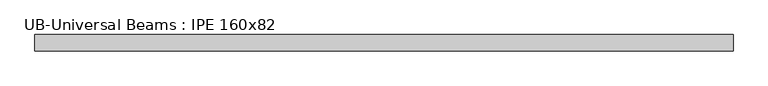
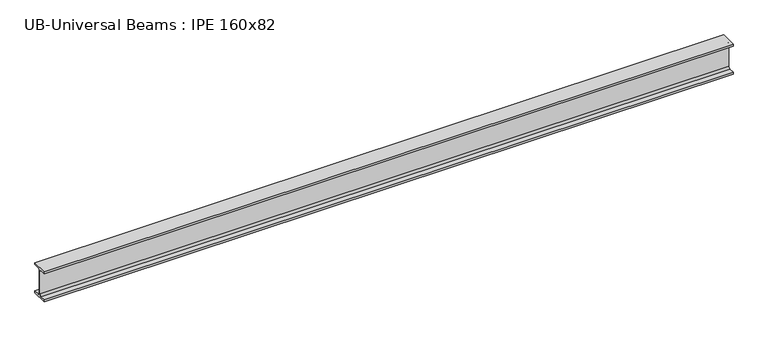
"""IFC4 building model written with IfcOpenShell, lengths in millimetres: beam geometry, UB-Universal Beams : IPE 160x82."""

import ifcopenshell
import ifcopenshell.guid

model = None  # the IFC model being written
_history = None  # IfcOwnerHistory: only IFC2X3 demands one
_inside = {}  # id of a spatial element -> (the spatial element, [elements in it])
_under = {}  # id of a project, library or spatial element -> (it, [spatial elements below it])
_declared = {}  # id of a project -> (the project, [libraries it declares])
_typed = {}  # id of a type object -> (the type object, [elements of that type])
_made_of = {}  # id of a material, layer set ... -> (it, [elements and type objects made of it])


def new_model(schema):
    """Start an empty IFC model of exactly this schema.

    Asked for "IFC4X3", IfcOpenShell would pick the latest addendum, in which some entities
    have other attributes; the version numbers below select the first issue.
    IFC2X3 requires an IfcOwnerHistory on every rooted entity: one is made here for all.
    """
    global model, _history
    if schema == "IFC4X3":
        model = ifcopenshell.file(schema_version=(4, 3, 0, 0))
    else:
        model = ifcopenshell.file(schema=schema)
    _inside.clear()
    _under.clear()
    _declared.clear()
    _typed.clear()
    _made_of.clear()
    _history = None
    if model.schema == "IFC2X3":
        org = make("IfcOrganization", Name="unknown")
        user = make(
            "IfcPersonAndOrganization",
            ThePerson=make("IfcPerson", FamilyName="unknown"),
            TheOrganization=org,
        )
        app = make(
            "IfcApplication",
            ApplicationDeveloper=org,
            Version="unknown",
            ApplicationFullName="unknown",
            ApplicationIdentifier="unknown",
        )
        _history = make(
            "IfcOwnerHistory",
            OwningUser=user,
            OwningApplication=app,
            ChangeAction="ADDED",
            CreationDate=0,
        )
    return model


def make(cls, **values):
    """One entity of the class cls with the attributes given. An attribute that is None is left unset."""
    return model.create_entity(
        cls, **{name: value for name, value in values.items() if value is not None}
    )


def rooted(cls, **values):
    """An entity with a GlobalId (a new one), such as an element, a storey or a relation."""
    return make(cls, GlobalId=ifcopenshell.guid.new(), OwnerHistory=_history, **values)


def si_unit(unit_type, name, prefix=None):
    """IfcSIUnit, for example si_unit("LENGTHUNIT", "METRE", prefix="MILLI")."""
    return make("IfcSIUnit", UnitType=unit_type, Prefix=prefix, Name=name)


def assignment(units):
    """IfcUnitAssignment: the units of a project."""
    return None if units is None else make("IfcUnitAssignment", Units=units)


def point(xyz):
    """IfcCartesianPoint."""
    return None if xyz is None else make("IfcCartesianPoint", Coordinates=xyz)


def direction(xyz):
    """IfcDirection."""
    return None if xyz is None else make("IfcDirection", DirectionRatios=xyz)


def frame(location, z_axis=None, x_axis=None):
    """IfcAxis2Placement3D, a coordinate frame: its origin and axes. An axis left out is left unset."""
    return make(
        "IfcAxis2Placement3D",
        Location=point(location),
        Axis=direction(z_axis),
        RefDirection=direction(x_axis),
    )


def frame_2d(location, x_axis=None):
    """IfcAxis2Placement2D, a coordinate frame in the plane: its origin and x axis."""
    return make(
        "IfcAxis2Placement2D", Location=point(location), RefDirection=direction(x_axis)
    )


def origin():
    """The frame at (0, 0, 0) with its axes left unset."""
    return frame((0.0, 0.0, 0.0))


def place(relative_to, where):
    """IfcLocalPlacement: puts the frame where relative to a parent placement (None: the world)."""
    return make(
        "IfcLocalPlacement", PlacementRelTo=relative_to, RelativePlacement=where
    )


def context(
    kind, dimensions, precision=None, world=None, true_north=None, identifier=None
):
    """IfcGeometricRepresentationContext, for example the 3D "Model" context."""
    return make(
        "IfcGeometricRepresentationContext",
        ContextIdentifier=identifier,
        ContextType=kind,
        CoordinateSpaceDimension=dimensions,
        Precision=precision,
        WorldCoordinateSystem=world,
        TrueNorth=true_north,
    )


def project(units=None, contexts=None):
    """IfcProject with its units and contexts."""
    return rooted(
        "IfcProject",
        Name="project",
        RepresentationContexts=contexts,
        UnitsInContext=assignment(units),
    )


def spatial(cls, under=None, at=None, **own):
    """A site, building, storey or space (cls), placed at a placement, below another one or the project."""
    s = rooted(cls, ObjectPlacement=at, **own)
    if under is not None:
        _under.setdefault(under.id(), (under, []))[1].append(s)
    return s


def polyline(points):
    """IfcPolyline through the points."""
    return make("IfcPolyline", Points=[point(p) for p in points])


def circle_curve(where, radius):
    """IfcCircle in the frame where."""
    return make("IfcCircle", Position=where, Radius=radius)


def trimmed(basis, trim1, trim2, sense, master):
    """IfcTrimmedCurve: the piece of a basis curve between two trims."""
    return make(
        "IfcTrimmedCurve",
        BasisCurve=basis,
        Trim1=trim1,
        Trim2=trim2,
        SenseAgreement=sense,
        MasterRepresentation=master,
    )


def segment(curve, same_sense, transition):
    """IfcCompositeCurveSegment."""
    return make(
        "IfcCompositeCurveSegment",
        Transition=transition,
        SameSense=same_sense,
        ParentCurve=curve,
    )


def composite_curve(segments, self_intersect=None):
    """IfcCompositeCurve: segments joined end to end."""
    return make("IfcCompositeCurve", Segments=segments, SelfIntersect=self_intersect)


def outline(outer, holes=None, kind="AREA"):
    """IfcArbitraryClosedProfileDef: a profile drawn as a closed curve; with holes, ...WithVoids."""
    if holes is None:
        return make("IfcArbitraryClosedProfileDef", ProfileType=kind, OuterCurve=outer)
    return make(
        "IfcArbitraryProfileDefWithVoids",
        ProfileType=kind,
        OuterCurve=outer,
        InnerCurves=holes,
    )


def extrude(swept, where, along, depth):
    """IfcExtrudedAreaSolid: the profile swept, set in the frame where, extruded along a direction by depth."""
    return make(
        "IfcExtrudedAreaSolid",
        SweptArea=swept,
        Position=where,
        ExtrudedDirection=direction(along),
        Depth=depth,
    )


def shape(context_of_items, identifier, shape_type, items):
    """IfcShapeRepresentation: the items that make up one representation, for example the "Body"."""
    return make(
        "IfcShapeRepresentation",
        ContextOfItems=context_of_items,
        RepresentationIdentifier=identifier,
        RepresentationType=shape_type,
        Items=items,
    )


def source(mapping_origin, context_of_items, identifier, shape_type, items):
    """IfcRepresentationMap: a shape defined once, which mapped items show again and again."""
    return make(
        "IfcRepresentationMap",
        MappingOrigin=mapping_origin,
        MappedRepresentation=shape(context_of_items, identifier, shape_type, items),
    )


def transform(
    local_origin,
    x_axis=None,
    y_axis=None,
    z_axis=None,
    scale=None,
    scale2=None,
    scale3=None,
    uniform=True,
):
    """IfcCartesianTransformationOperator3D, or its non-uniform kind. x_axis, y_axis, z_axis: its Axis1, 2, 3."""
    if uniform:
        return make(
            "IfcCartesianTransformationOperator3D",
            Axis1=direction(x_axis),
            Axis2=direction(y_axis),
            LocalOrigin=point(local_origin),
            Scale=scale,
            Axis3=direction(z_axis),
        )
    return make(
        "IfcCartesianTransformationOperator3DnonUniform",
        Axis1=direction(x_axis),
        Axis2=direction(y_axis),
        LocalOrigin=point(local_origin),
        Scale=scale,
        Axis3=direction(z_axis),
        Scale2=scale2,
        Scale3=scale3,
    )


def mapped(mapping_source, mapping_target):
    """IfcMappedItem: shows the shape of a source again, moved by a transform."""
    return make(
        "IfcMappedItem", MappingSource=mapping_source, MappingTarget=mapping_target
    )


def made_of(thing, what):
    """Note that an element or type object is made of a material, layer set ...; save() writes the relation."""
    if what is not None:
        _made_of.setdefault(what.id(), (what, []))[1].append(thing)
    return thing


def element(
    cls,
    number,
    at=None,
    inside=None,
    cuts=None,
    type_object=None,
    material=None,
    context=None,
    identifier="Body",
    shape_type=None,
    held_by="IfcProductDefinitionShape",
    body=None,
    shapes=None,
    **own,
):
    """One element of the class cls, such as IfcWall. Its Tag is "e" and its number.

    at: its placement. inside: the storey or other place that contains it. cuts: it is an
    opening in that element (IfcRelVoidsElement). A single representation is given by context,
    identifier, shape_type and body (its items); several are given by shapes. held_by: the class
    of the entity that holds the representations. save() writes the other relations.
    """
    e = rooted(cls, Tag="e%d" % number, ObjectPlacement=at, **own)
    if body is not None:
        shapes = [shape(context, identifier, shape_type, body)]
    if shapes is not None:
        e.Representation = make(held_by, Representations=shapes)
    if inside is not None:
        _inside.setdefault(inside.id(), (inside, []))[1].append(e)
    if cuts is not None:
        rooted(
            "IfcRelVoidsElement", RelatingBuildingElement=cuts, RelatedOpeningElement=e
        )
    if type_object is not None:
        _typed.setdefault(type_object.id(), (type_object, []))[1].append(e)
    return made_of(e, material)


def aggregate(whole, parts):
    """IfcRelAggregates: a whole, such as a stair, and the parts it consists of."""
    return rooted("IfcRelAggregates", RelatingObject=whole, RelatedObjects=parts)


def save(model, path):
    """Write the relations noted so far, then the file.

    IfcRelAggregates (storeys below a building ...), IfcRelContainedInSpatialStructure (elements
    in a storey), IfcRelDefinesByType, IfcRelAssociatesMaterial and IfcRelDeclares: one each for
    every whole, place, type object, material and project.
    """
    for whole, parts in _under.values():
        aggregate(whole, parts)
    for where, things in _inside.values():
        rooted(
            "IfcRelContainedInSpatialStructure",
            RelatedElements=things,
            RelatingStructure=where,
        )
    for kind, things in _typed.values():
        rooted("IfcRelDefinesByType", RelatedObjects=things, RelatingType=kind)
    for what, things in _made_of.values():
        rooted("IfcRelAssociatesMaterial", RelatedObjects=things, RelatingMaterial=what)
    for by, libraries in _declared.values():
        rooted("IfcRelDeclares", RelatingContext=by, RelatedDefinitions=libraries)
    model.write(path)


def ub_universal_beams_ipe_160x82_a4b44378(model_context):
    return source(origin(), model_context, "Body", "SweptSolid", [
        extrude(outline(composite_curve([segment(polyline([(41.0, -69.8), (41.0, -80.0), (-41.0, -80.0), (-41.0, -69.8), (-11.9, -69.8)]), True, "CONTINUOUS"), segment(trimmed(circle_curve(frame_2d((-11.9, -60.9)), 8.9), [point((-11.9, -69.8))], [point((-3.0, -60.9))], True, "CARTESIAN"), True, "CONTINUOUS"), segment(polyline([(-3.0, -60.9), (-3.0, 60.9)]), True, "CONTINUOUS"), segment(trimmed(circle_curve(frame_2d((-11.9, 60.9)), 8.9), [point((-3.0, 60.9))], [point((-11.9, 69.8))], True, "CARTESIAN"), True, "CONTINUOUS"), segment(polyline([(-11.9, 69.8), (-41.0, 69.8), (-41.0, 80.0), (41.0, 80.0), (41.0, 69.8), (11.9, 69.8)]), True, "CONTINUOUS"), segment(trimmed(circle_curve(frame_2d((11.9, 60.9)), 8.9), [point((11.9, 69.8))], [point((3.0, 60.9))], True, "CARTESIAN"), True, "CONTINUOUS"), segment(polyline([(3.0, 60.9), (3.0, -60.9)]), True, "CONTINUOUS"), segment(trimmed(circle_curve(frame_2d((11.9, -60.9)), 8.9), [point((3.0, -60.9))], [point((11.9, -69.8))], True, "CARTESIAN"), True, "CONTINUOUS"), segment(polyline([(11.9, -69.8), (41.0, -69.8)]), True, "CONTINUOUS")], self_intersect=False)), frame((-1354.75, 0.0, 0.0), z_axis=(1.0, 0.0, 0.0), x_axis=(0.0, 1.0, 0.0)), (0.0, 0.0, 1.0), 3472.2),
    ])


if __name__ == "__main__":
    model = new_model("IFC4")
    model_context = context("Model", 3, world=origin())
    ifc_project = project(units=[si_unit("LENGTHUNIT", "METRE", prefix="MILLI")], contexts=[model_context])
    site = spatial("IfcSite", under=ifc_project)
    building = spatial("IfcBuilding", under=site)
    placement = place(None, origin())
    ub_universal_beams_ipe_160x82_shape = ub_universal_beams_ipe_160x82_a4b44378(model_context)
    element("IfcBeam", 1, ObjectType="UB-Universal Beams : IPE 160x82", at=placement, inside=building, context=model_context, shape_type="MappedRepresentation", body=[
        mapped(ub_universal_beams_ipe_160x82_shape, transform((0.0, 0.0, 0.0), x_axis=(1.0, 0.0, 0.0), y_axis=(0.0, 1.0, 0.0), z_axis=(0.0, 0.0, 1.0))),
    ])
    save(model, "model.ifc")
